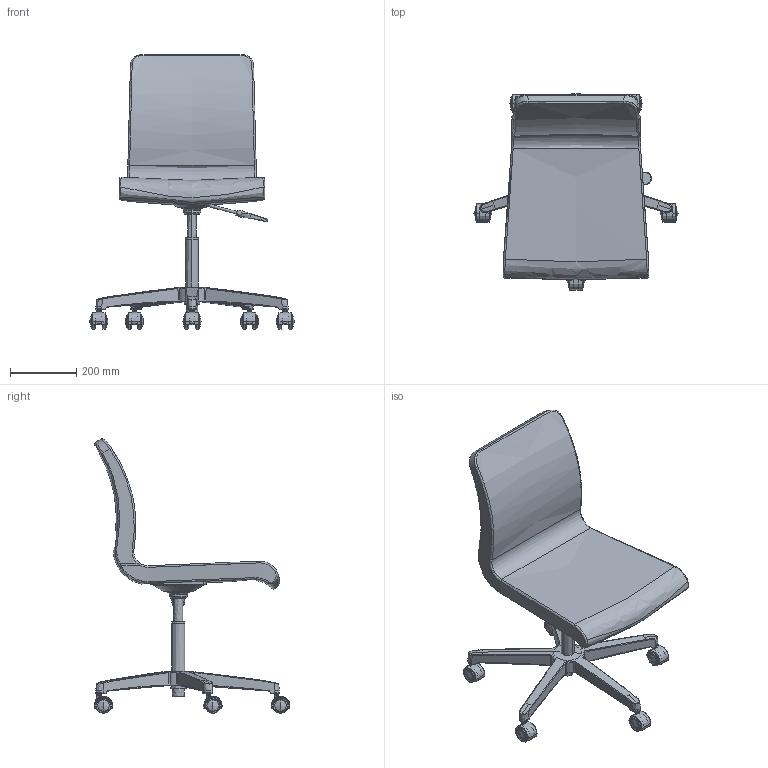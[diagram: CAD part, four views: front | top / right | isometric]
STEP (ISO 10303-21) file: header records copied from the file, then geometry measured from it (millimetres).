
FILE_DESCRIPTION(/* description */ (''),/* implementation_level */ '2;1');
FILE_NAME(/* name */ 'KI4C3E~1',/* time_stamp */ '2019-07-19T10:28:57+09:00',/* author */ (''),/* organization */ (''),/* preprocessor_version */ 'ST-DEVELOPER v15',/* originating_system */ '',/* authorisation */ '');
FILE_SCHEMA (('AUTOMOTIVE_DESIGN'));
Length unit declared in the file: millimetre
Products named in the file (1): Document
Bounding box: 616.55 x 590.56 x 829.78 mm (x, y, z)
Volume: 527305.3 mm3; surface area: 1231203.8 mm2
Topology: 25 solids, 29 shells, 869 faces, 1995 edges, 1161 vertices
Faces by surface type: bspline 731, plane 138
Entity records: 63143 total; most frequent: CARTESIAN_POINT 52155, ORIENTED_EDGE 3882, EDGE_CURVE 1973, VERTEX_POINT 1161, EDGE_LOOP 920, ADVANCED_FACE 869, FACE_OUTER_BOUND 869, B_SPLINE_CURVE_WITH_KNOTS 719
